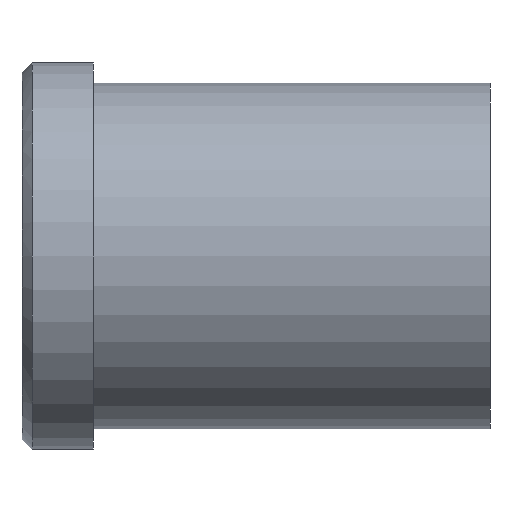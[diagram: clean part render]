
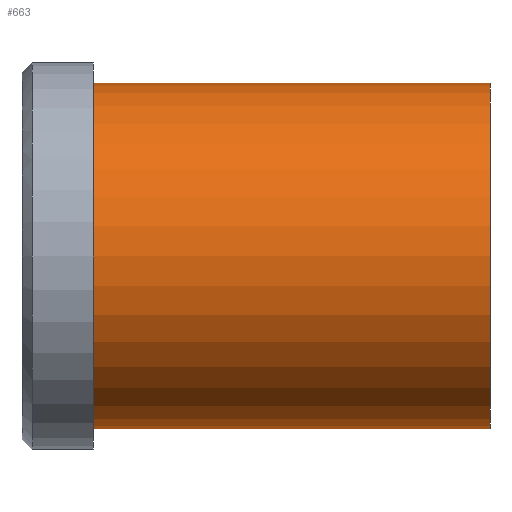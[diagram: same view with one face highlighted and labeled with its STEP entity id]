
A CAD part, front view. The second image highlights one B-rep face of the part: STEP entity #663.
In plain terms, the highlighted cylindrical face has radius 17 mm (diameter 34 mm), a partial arc.
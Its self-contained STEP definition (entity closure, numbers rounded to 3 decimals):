
#501=CARTESIAN_POINT('Vertex',(0.,0.,-17.)) ;
#506=CARTESIAN_POINT('Axis2P3D Location',(0.,0.,0.)) ;
#510=CARTESIAN_POINT('Vertex',(0.,-17.,0.)) ;
#513=CARTESIAN_POINT('Axis2P3D Location',(0.,0.,0.)) ;
#517=CARTESIAN_POINT('Vertex',(0.,0.,17.)) ;
#603=CARTESIAN_POINT('Line Origine',(39.,0.,17.)) ;
#607=CARTESIAN_POINT('Vertex',(39.,0.,17.)) ;
#621=CARTESIAN_POINT('Vertex',(39.,0.,-17.)) ;
#624=CARTESIAN_POINT('Line Origine',(39.,0.,-17.)) ;
#638=CARTESIAN_POINT('Axis2P3D Location',(39.,0.,0.)) ;
#643=CARTESIAN_POINT('Axis2P3D Location',(39.,0.,0.)) ;
#647=CARTESIAN_POINT('Vertex',(39.,-17.,0.)) ;
#650=CARTESIAN_POINT('Axis2P3D Location',(39.,0.,0.)) ;
#507=DIRECTION('Axis2P3D Direction',(1.,0.,-0.)) ;
#514=DIRECTION('Axis2P3D Direction',(1.,0.,-0.)) ;
#604=DIRECTION('Vector Direction',(-1.,0.,0.)) ;
#625=DIRECTION('Vector Direction',(-1.,0.,0.)) ;
#639=DIRECTION('Axis2P3D Direction',(-1.,-0.,-0.)) ;
#640=DIRECTION('Axis2P3D XDirection',(0.,0.,-1.)) ;
#644=DIRECTION('Axis2P3D Direction',(-1.,-0.,-0.)) ;
#651=DIRECTION('Axis2P3D Direction',(-1.,-0.,-0.)) ;
#508=AXIS2_PLACEMENT_3D('Circle Axis2P3D',#506,#507,$) ;
#515=AXIS2_PLACEMENT_3D('Circle Axis2P3D',#513,#514,$) ;
#641=AXIS2_PLACEMENT_3D('Cylinder Axis2P3D',#638,#639,#640) ;
#645=AXIS2_PLACEMENT_3D('Circle Axis2P3D',#643,#644,$) ;
#652=AXIS2_PLACEMENT_3D('Circle Axis2P3D',#650,#651,$) ;
#656=ORIENTED_EDGE('',*,*,#628,.T.) ;
#657=ORIENTED_EDGE('',*,*,#649,.F.) ;
#658=ORIENTED_EDGE('',*,*,#654,.F.) ;
#659=ORIENTED_EDGE('',*,*,#609,.T.) ;
#660=ORIENTED_EDGE('',*,*,#519,.T.) ;
#661=ORIENTED_EDGE('',*,*,#512,.T.) ;
#605=VECTOR('Line Direction',#604,1.) ;
#626=VECTOR('Line Direction',#625,1.) ;
#663=ADVANCED_FACE('353-25X46',(#662),#642,.T.) ;
#509=CIRCLE('generated circle',#508,17.) ;
#516=CIRCLE('generated circle',#515,17.) ;
#646=CIRCLE('generated circle',#645,17.) ;
#653=CIRCLE('generated circle',#652,17.) ;
#642=CYLINDRICAL_SURFACE('generated cylinder',#641,17.) ;
#512=EDGE_CURVE('',#511,#502,#509,.T.) ;
#519=EDGE_CURVE('',#518,#511,#516,.T.) ;
#609=EDGE_CURVE('',#608,#518,#606,.T.) ;
#628=EDGE_CURVE('',#502,#622,#627,.F.) ;
#649=EDGE_CURVE('',#648,#622,#646,.F.) ;
#654=EDGE_CURVE('',#608,#648,#653,.F.) ;
#655=EDGE_LOOP('',(#656,#657,#658,#659,#660,#661)) ;
#662=FACE_OUTER_BOUND('',#655,.T.) ;
#606=LINE('Line',#603,#605) ;
#627=LINE('Line',#624,#626) ;
#502=VERTEX_POINT('',#501) ;
#511=VERTEX_POINT('',#510) ;
#518=VERTEX_POINT('',#517) ;
#608=VERTEX_POINT('',#607) ;
#622=VERTEX_POINT('',#621) ;
#648=VERTEX_POINT('',#647) ;
